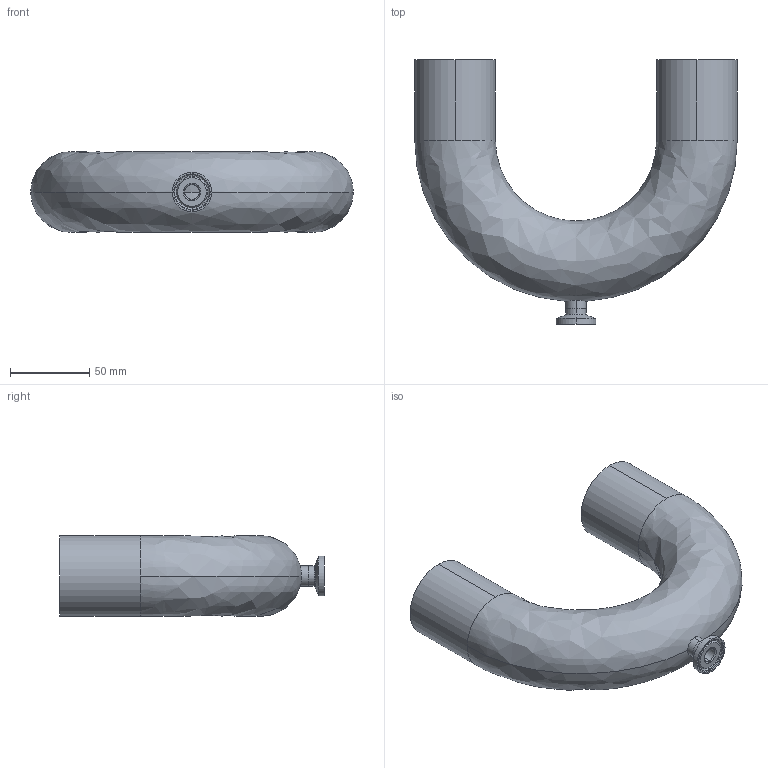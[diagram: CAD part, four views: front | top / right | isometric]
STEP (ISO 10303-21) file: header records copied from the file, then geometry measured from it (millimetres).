
FILE_DESCRIPTION (( 'STEP AP214' ), '1' );
FILE_NAME ('TE2UBWWC6L2.0x.5-...STEP', '2016-05-25T04:59:18', ( 'eran' ), ( '' ), 'SwSTEP 2.0', 'SolidWorks 2016', '' );
FILE_SCHEMA (( 'AUTOMOTIVE_DESIGN' ));
Length unit declared in the file: millimetre
Products named in the file (1): TE2UBWWC6L2.0x.5-..
Bounding box: 203.2 x 166.7 x 50.8 mm (x, y, z)
Volume: 88918.6 mm3; surface area: 107773.2 mm2
Topology: 2 solids, 2 shells, 42 faces, 100 edges, 62 vertices
Faces by surface type: cylinder 20, bspline 12, plane 6, cone 4
Entity records: 1563 total; most frequent: CARTESIAN_POINT 553, DIRECTION 214, ORIENTED_EDGE 200, EDGE_CURVE 100, AXIS2_PLACEMENT_3D 95, CIRCLE 64, VERTEX_POINT 62, EDGE_LOOP 48
